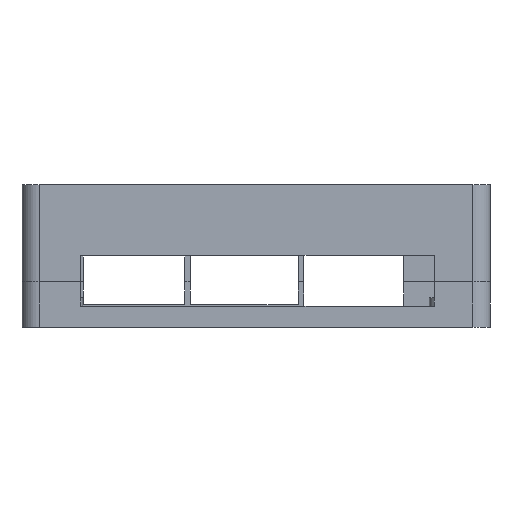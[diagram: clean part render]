
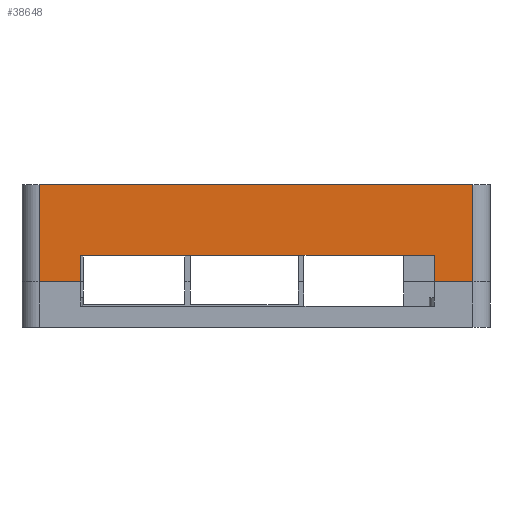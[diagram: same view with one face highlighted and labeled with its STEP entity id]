
A CAD part, front view. The second image highlights one B-rep face of the part: STEP entity #38648.
In plain terms, the highlighted planar face has unit normal (0, -1, 0).
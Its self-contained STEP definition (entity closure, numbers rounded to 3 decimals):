
#10610 = PLANE('',#10611);
#10611 = AXIS2_PLACEMENT_3D('',#10612,#10613,#10614);
#10612 = CARTESIAN_POINT('',(0.,0.,50.));
#10613 = DIRECTION('',(0.,0.,1.));
#10614 = DIRECTION('',(1.,0.,0.));
#10638 = CYLINDRICAL_SURFACE('',#10639,6.);
#10639 = AXIS2_PLACEMENT_3D('',#10640,#10641,#10642);
#10640 = CARTESIAN_POINT('',(6.,6.,16.));
#10641 = DIRECTION('',(0.,0.,1.));
#10642 = DIRECTION('',(-1.,-0.,0.));
#10666 = PLANE('',#10667);
#10667 = AXIS2_PLACEMENT_3D('',#10668,#10669,#10670);
#10668 = CARTESIAN_POINT('',(0.,0.,16.));
#10669 = DIRECTION('',(0.,0.,1.));
#10670 = DIRECTION('',(1.,0.,0.));
#12433 = VERTEX_POINT('',#12434);
#12434 = CARTESIAN_POINT('',(6.,0.,50.));
#12456 = EDGE_CURVE('',#12433,#12457,#12459,.T.);
#12457 = VERTEX_POINT('',#12458);
#12458 = CARTESIAN_POINT('',(158.,0.,50.));
#12459 = SURFACE_CURVE('',#12460,(#12464,#12471),.PCURVE_S1.);
#12460 = LINE('',#12461,#12462);
#12461 = CARTESIAN_POINT('',(0.,0.,50.));
#12462 = VECTOR('',#12463,1.);
#12463 = DIRECTION('',(1.,0.,0.));
#12464 = PCURVE('',#10610,#12465);
#12465 = DEFINITIONAL_REPRESENTATION('',(#12466),#12470);
#12466 = LINE('',#12467,#12468);
#12467 = CARTESIAN_POINT('',(0.,0.));
#12468 = VECTOR('',#12469,1.);
#12469 = DIRECTION('',(1.,0.));
#12470 = ( GEOMETRIC_REPRESENTATION_CONTEXT(2) 
PARAMETRIC_REPRESENTATION_CONTEXT() REPRESENTATION_CONTEXT('2D SPACE',''
  ) );
#12471 = PCURVE('',#12472,#12477);
#12472 = PLANE('',#12473);
#12473 = AXIS2_PLACEMENT_3D('',#12474,#12475,#12476);
#12474 = CARTESIAN_POINT('',(0.,0.,16.));
#12475 = DIRECTION('',(0.,1.,0.));
#12476 = DIRECTION('',(0.,0.,1.));
#12477 = DEFINITIONAL_REPRESENTATION('',(#12478),#12482);
#12478 = LINE('',#12479,#12480);
#12479 = CARTESIAN_POINT('',(34.,0.));
#12480 = VECTOR('',#12481,1.);
#12481 = DIRECTION('',(0.,1.));
#12482 = ( GEOMETRIC_REPRESENTATION_CONTEXT(2) 
PARAMETRIC_REPRESENTATION_CONTEXT() REPRESENTATION_CONTEXT('2D SPACE',''
  ) );
#12505 = CYLINDRICAL_SURFACE('',#12506,6.);
#12506 = AXIS2_PLACEMENT_3D('',#12507,#12508,#12509);
#12507 = CARTESIAN_POINT('',(158.,6.,16.));
#12508 = DIRECTION('',(0.,0.,1.));
#12509 = DIRECTION('',(1.,0.,-0.));
#35773 = VERTEX_POINT('',#35774);
#35774 = CARTESIAN_POINT('',(6.,0.,16.));
#35796 = EDGE_CURVE('',#35773,#35797,#35799,.T.);
#35797 = VERTEX_POINT('',#35798);
#35798 = CARTESIAN_POINT('',(20.55,0.,16.));
#35799 = SURFACE_CURVE('',#35800,(#35804,#35811),.PCURVE_S1.);
#35800 = LINE('',#35801,#35802);
#35801 = CARTESIAN_POINT('',(0.,0.,16.));
#35802 = VECTOR('',#35803,1.);
#35803 = DIRECTION('',(1.,0.,0.));
#35804 = PCURVE('',#10666,#35805);
#35805 = DEFINITIONAL_REPRESENTATION('',(#35806),#35810);
#35806 = LINE('',#35807,#35808);
#35807 = CARTESIAN_POINT('',(0.,0.));
#35808 = VECTOR('',#35809,1.);
#35809 = DIRECTION('',(1.,0.));
#35810 = ( GEOMETRIC_REPRESENTATION_CONTEXT(2) 
PARAMETRIC_REPRESENTATION_CONTEXT() REPRESENTATION_CONTEXT('2D SPACE',''
  ) );
#35811 = PCURVE('',#12472,#35812);
#35812 = DEFINITIONAL_REPRESENTATION('',(#35813),#35817);
#35813 = LINE('',#35814,#35815);
#35814 = CARTESIAN_POINT('',(0.,0.));
#35815 = VECTOR('',#35816,1.);
#35816 = DIRECTION('',(0.,1.));
#35817 = ( GEOMETRIC_REPRESENTATION_CONTEXT(2) 
PARAMETRIC_REPRESENTATION_CONTEXT() REPRESENTATION_CONTEXT('2D SPACE',''
  ) );
#35834 = PLANE('',#35835);
#35835 = AXIS2_PLACEMENT_3D('',#35836,#35837,#35838);
#35836 = CARTESIAN_POINT('',(20.55,-8.,7.45));
#35837 = DIRECTION('',(1.,0.,0.));
#35838 = DIRECTION('',(0.,0.,1.));
#36000 = EDGE_CURVE('',#35773,#12433,#36001,.T.);
#36001 = SURFACE_CURVE('',#36002,(#36006,#36013),.PCURVE_S1.);
#36002 = LINE('',#36003,#36004);
#36003 = CARTESIAN_POINT('',(6.,0.,16.));
#36004 = VECTOR('',#36005,1.);
#36005 = DIRECTION('',(0.,0.,1.));
#36006 = PCURVE('',#10638,#36007);
#36007 = DEFINITIONAL_REPRESENTATION('',(#36008),#36012);
#36008 = LINE('',#36009,#36010);
#36009 = CARTESIAN_POINT('',(1.571,0.));
#36010 = VECTOR('',#36011,1.);
#36011 = DIRECTION('',(0.,1.));
#36012 = ( GEOMETRIC_REPRESENTATION_CONTEXT(2) 
PARAMETRIC_REPRESENTATION_CONTEXT() REPRESENTATION_CONTEXT('2D SPACE',''
  ) );
#36013 = PCURVE('',#12472,#36014);
#36014 = DEFINITIONAL_REPRESENTATION('',(#36015),#36019);
#36015 = LINE('',#36016,#36017);
#36016 = CARTESIAN_POINT('',(0.,6.));
#36017 = VECTOR('',#36018,1.);
#36018 = DIRECTION('',(1.,0.));
#36019 = ( GEOMETRIC_REPRESENTATION_CONTEXT(2) 
PARAMETRIC_REPRESENTATION_CONTEXT() REPRESENTATION_CONTEXT('2D SPACE',''
  ) );
#38648 = ADVANCED_FACE('',(#38649),#12472,.F.);
#38649 = FACE_BOUND('',#38650,.F.);
#38650 = EDGE_LOOP('',(#38651,#38652,#38653,#38654,#38677,#38705,#38731,
    #38757));
#38651 = ORIENTED_EDGE('',*,*,#35796,.F.);
#38652 = ORIENTED_EDGE('',*,*,#36000,.T.);
#38653 = ORIENTED_EDGE('',*,*,#12456,.T.);
#38654 = ORIENTED_EDGE('',*,*,#38655,.F.);
#38655 = EDGE_CURVE('',#38656,#12457,#38658,.T.);
#38656 = VERTEX_POINT('',#38657);
#38657 = CARTESIAN_POINT('',(158.,0.,16.));
#38658 = SURFACE_CURVE('',#38659,(#38663,#38670),.PCURVE_S1.);
#38659 = LINE('',#38660,#38661);
#38660 = CARTESIAN_POINT('',(158.,0.,16.));
#38661 = VECTOR('',#38662,1.);
#38662 = DIRECTION('',(0.,0.,1.));
#38663 = PCURVE('',#12472,#38664);
#38664 = DEFINITIONAL_REPRESENTATION('',(#38665),#38669);
#38665 = LINE('',#38666,#38667);
#38666 = CARTESIAN_POINT('',(0.,158.));
#38667 = VECTOR('',#38668,1.);
#38668 = DIRECTION('',(1.,0.));
#38669 = ( GEOMETRIC_REPRESENTATION_CONTEXT(2) 
PARAMETRIC_REPRESENTATION_CONTEXT() REPRESENTATION_CONTEXT('2D SPACE',''
  ) );
#38670 = PCURVE('',#12505,#38671);
#38671 = DEFINITIONAL_REPRESENTATION('',(#38672),#38676);
#38672 = LINE('',#38673,#38674);
#38673 = CARTESIAN_POINT('',(-1.571,0.));
#38674 = VECTOR('',#38675,1.);
#38675 = DIRECTION('',(-0.,1.));
#38676 = ( GEOMETRIC_REPRESENTATION_CONTEXT(2) 
PARAMETRIC_REPRESENTATION_CONTEXT() REPRESENTATION_CONTEXT('2D SPACE',''
  ) );
#38677 = ORIENTED_EDGE('',*,*,#38678,.F.);
#38678 = EDGE_CURVE('',#38679,#38656,#38681,.T.);
#38679 = VERTEX_POINT('',#38680);
#38680 = CARTESIAN_POINT('',(144.447,0.,16.));
#38681 = SURFACE_CURVE('',#38682,(#38686,#38693),.PCURVE_S1.);
#38682 = LINE('',#38683,#38684);
#38683 = CARTESIAN_POINT('',(0.,0.,16.));
#38684 = VECTOR('',#38685,1.);
#38685 = DIRECTION('',(1.,0.,0.));
#38686 = PCURVE('',#12472,#38687);
#38687 = DEFINITIONAL_REPRESENTATION('',(#38688),#38692);
#38688 = LINE('',#38689,#38690);
#38689 = CARTESIAN_POINT('',(0.,0.));
#38690 = VECTOR('',#38691,1.);
#38691 = DIRECTION('',(0.,1.));
#38692 = ( GEOMETRIC_REPRESENTATION_CONTEXT(2) 
PARAMETRIC_REPRESENTATION_CONTEXT() REPRESENTATION_CONTEXT('2D SPACE',''
  ) );
#38693 = PCURVE('',#38694,#38699);
#38694 = PLANE('',#38695);
#38695 = AXIS2_PLACEMENT_3D('',#38696,#38697,#38698);
#38696 = CARTESIAN_POINT('',(0.,0.,16.));
#38697 = DIRECTION('',(0.,0.,1.));
#38698 = DIRECTION('',(1.,0.,0.));
#38699 = DEFINITIONAL_REPRESENTATION('',(#38700),#38704);
#38700 = LINE('',#38701,#38702);
#38701 = CARTESIAN_POINT('',(0.,0.));
#38702 = VECTOR('',#38703,1.);
#38703 = DIRECTION('',(1.,0.));
#38704 = ( GEOMETRIC_REPRESENTATION_CONTEXT(2) 
PARAMETRIC_REPRESENTATION_CONTEXT() REPRESENTATION_CONTEXT('2D SPACE',''
  ) );
#38705 = ORIENTED_EDGE('',*,*,#38706,.F.);
#38706 = EDGE_CURVE('',#38707,#38679,#38709,.T.);
#38707 = VERTEX_POINT('',#38708);
#38708 = CARTESIAN_POINT('',(144.447,0.,25.199));
#38709 = SURFACE_CURVE('',#38710,(#38714,#38720),.PCURVE_S1.);
#38710 = LINE('',#38711,#38712);
#38711 = CARTESIAN_POINT('',(144.447,0.,11.725));
#38712 = VECTOR('',#38713,1.);
#38713 = DIRECTION('',(0.,0.,-1.));
#38714 = PCURVE('',#12472,#38715);
#38715 = DEFINITIONAL_REPRESENTATION('',(#38716),#38719);
#38716 = B_SPLINE_CURVE_WITH_KNOTS('',1,(#38717,#38718),.UNSPECIFIED.,
  .F.,.F.,(2,2),(-13.474,-4.275),.PIECEWISE_BEZIER_KNOTS.);
#38717 = CARTESIAN_POINT('',(9.199,144.447));
#38718 = CARTESIAN_POINT('',(0.,144.447));
#38719 = ( GEOMETRIC_REPRESENTATION_CONTEXT(2) 
PARAMETRIC_REPRESENTATION_CONTEXT() REPRESENTATION_CONTEXT('2D SPACE',''
  ) );
#38720 = PCURVE('',#38721,#38726);
#38721 = PLANE('',#38722);
#38722 = AXIS2_PLACEMENT_3D('',#38723,#38724,#38725);
#38723 = CARTESIAN_POINT('',(144.447,-8.,7.45));
#38724 = DIRECTION('',(1.,0.,0.));
#38725 = DIRECTION('',(0.,0.,1.));
#38726 = DEFINITIONAL_REPRESENTATION('',(#38727),#38730);
#38727 = B_SPLINE_CURVE_WITH_KNOTS('',1,(#38728,#38729),.UNSPECIFIED.,
  .F.,.F.,(2,2),(-13.474,-4.275),.PIECEWISE_BEZIER_KNOTS.);
#38728 = CARTESIAN_POINT('',(17.749,-8.));
#38729 = CARTESIAN_POINT('',(8.55,-8.));
#38730 = ( GEOMETRIC_REPRESENTATION_CONTEXT(2) 
PARAMETRIC_REPRESENTATION_CONTEXT() REPRESENTATION_CONTEXT('2D SPACE',''
  ) );
#38731 = ORIENTED_EDGE('',*,*,#38732,.F.);
#38732 = EDGE_CURVE('',#38733,#38707,#38735,.T.);
#38733 = VERTEX_POINT('',#38734);
#38734 = CARTESIAN_POINT('',(20.55,0.,25.199));
#38735 = SURFACE_CURVE('',#38736,(#38740,#38746),.PCURVE_S1.);
#38736 = LINE('',#38737,#38738);
#38737 = CARTESIAN_POINT('',(10.275,0.,25.199));
#38738 = VECTOR('',#38739,1.);
#38739 = DIRECTION('',(1.,0.,0.));
#38740 = PCURVE('',#12472,#38741);
#38741 = DEFINITIONAL_REPRESENTATION('',(#38742),#38745);
#38742 = B_SPLINE_CURVE_WITH_KNOTS('',1,(#38743,#38744),.UNSPECIFIED.,
  .F.,.F.,(2,2),(10.275,134.172),.PIECEWISE_BEZIER_KNOTS.);
#38743 = CARTESIAN_POINT('',(9.199,20.55));
#38744 = CARTESIAN_POINT('',(9.199,144.447));
#38745 = ( GEOMETRIC_REPRESENTATION_CONTEXT(2) 
PARAMETRIC_REPRESENTATION_CONTEXT() REPRESENTATION_CONTEXT('2D SPACE',''
  ) );
#38746 = PCURVE('',#38747,#38752);
#38747 = PLANE('',#38748);
#38748 = AXIS2_PLACEMENT_3D('',#38749,#38750,#38751);
#38749 = CARTESIAN_POINT('',(20.55,-8.,25.199));
#38750 = DIRECTION('',(0.,0.,1.));
#38751 = DIRECTION('',(1.,0.,0.));
#38752 = DEFINITIONAL_REPRESENTATION('',(#38753),#38756);
#38753 = B_SPLINE_CURVE_WITH_KNOTS('',1,(#38754,#38755),.UNSPECIFIED.,
  .F.,.F.,(2,2),(10.275,134.172),.PIECEWISE_BEZIER_KNOTS.);
#38754 = CARTESIAN_POINT('',(0.,8.));
#38755 = CARTESIAN_POINT('',(123.897,8.));
#38756 = ( GEOMETRIC_REPRESENTATION_CONTEXT(2) 
PARAMETRIC_REPRESENTATION_CONTEXT() REPRESENTATION_CONTEXT('2D SPACE',''
  ) );
#38757 = ORIENTED_EDGE('',*,*,#38758,.T.);
#38758 = EDGE_CURVE('',#38733,#35797,#38759,.T.);
#38759 = SURFACE_CURVE('',#38760,(#38764,#38770),.PCURVE_S1.);
#38760 = LINE('',#38761,#38762);
#38761 = CARTESIAN_POINT('',(20.55,0.,11.725));
#38762 = VECTOR('',#38763,1.);
#38763 = DIRECTION('',(0.,0.,-1.));
#38764 = PCURVE('',#12472,#38765);
#38765 = DEFINITIONAL_REPRESENTATION('',(#38766),#38769);
#38766 = B_SPLINE_CURVE_WITH_KNOTS('',1,(#38767,#38768),.UNSPECIFIED.,
  .F.,.F.,(2,2),(-13.474,-4.275),.PIECEWISE_BEZIER_KNOTS.);
#38767 = CARTESIAN_POINT('',(9.199,20.55));
#38768 = CARTESIAN_POINT('',(0.,20.55));
#38769 = ( GEOMETRIC_REPRESENTATION_CONTEXT(2) 
PARAMETRIC_REPRESENTATION_CONTEXT() REPRESENTATION_CONTEXT('2D SPACE',''
  ) );
#38770 = PCURVE('',#35834,#38771);
#38771 = DEFINITIONAL_REPRESENTATION('',(#38772),#38775);
#38772 = B_SPLINE_CURVE_WITH_KNOTS('',1,(#38773,#38774),.UNSPECIFIED.,
  .F.,.F.,(2,2),(-13.474,-4.275),.PIECEWISE_BEZIER_KNOTS.);
#38773 = CARTESIAN_POINT('',(17.749,-8.));
#38774 = CARTESIAN_POINT('',(8.55,-8.));
#38775 = ( GEOMETRIC_REPRESENTATION_CONTEXT(2) 
PARAMETRIC_REPRESENTATION_CONTEXT() REPRESENTATION_CONTEXT('2D SPACE',''
  ) );
